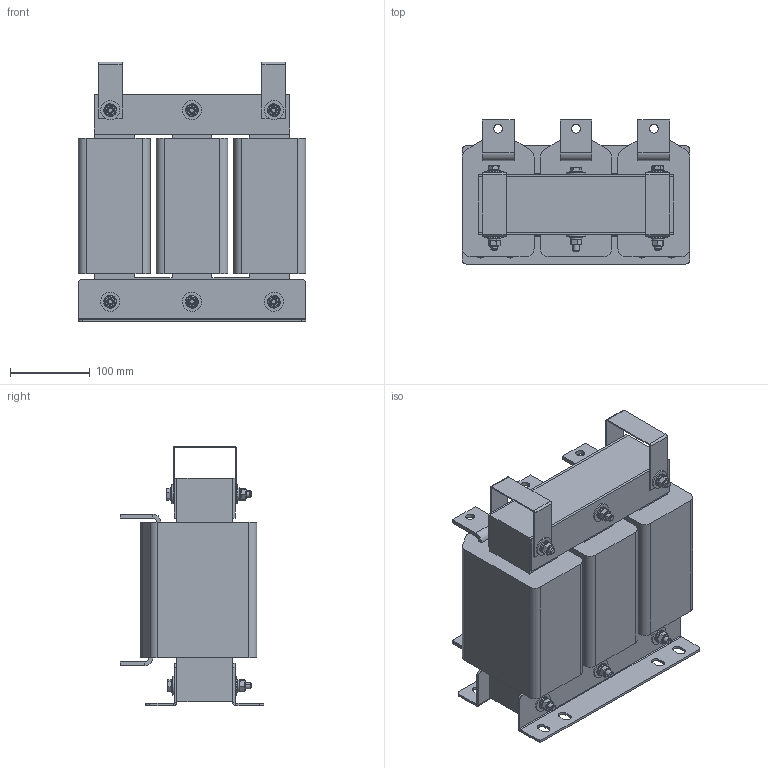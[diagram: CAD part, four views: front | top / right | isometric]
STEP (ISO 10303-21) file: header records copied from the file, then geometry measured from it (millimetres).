
FILE_DESCRIPTION (( 'STEP AP203' ), '1' );
FILE_NAME ('Ñåòåâîé äðîññåëü _ ISF-220_425-4.STEP', '2026-03-20T12:59:48', ( '' ), ( '' ), 'SwSTEP 2.0', 'SolidWorks 2021', '' );
FILE_SCHEMA (( 'CONFIG_CONTROL_DESIGN' ));
Length unit declared in the file: millimetre
Products named in the file (14): Êëåììà âåðõíÿÿ_200-250; Ñåòåâîé äðîññåëü _ ISF-220_425-4; Êëåììà íèæíÿÿ_200-250; Øàéáà ïëîñêàÿ DIN 9021_Œ8 ¯®«¨ ¬¨¤; 忺覷齆趌200-250; Øàéáà ïëîñêàÿ DIN 125 (A)_Œ8; Ñêîáà òàêåëàæíàÿ_200-250; 咈櫡_200-250; Áîëò DIN 933_Œ8å100; Êàòóøêà ñ êëåììàìè_200-250; Ãàéêà DIN 934_Œ8; Ïëàñòèíà ïðèæèìíàÿ_200-250; 栫謱毿膻獥1225; Øàéáà ïðóæèííàÿ DIN 127 (A)_Œ8
Assembly tree (55 placements, depth 3):
  Ñåòåâîé äðîññåëü _ ISF-220_425-4
    栫謱毿膻獥1225
    咈櫡_200-250  x2
    Êàòóøêà ñ êëåììàìè_200-250  x3
      忺覷齆趌200-250
      Êëåììà íèæíÿÿ_200-250
      Êëåììà âåðõíÿÿ_200-250
    Ïëàñòèíà ïðèæèìíàÿ_200-250  x2
    Ñêîáà òàêåëàæíàÿ_200-250  x2
    Øàéáà ïëîñêàÿ DIN 9021_Œ8 ¯®«¨ ¬¨¤  x12
    Øàéáà ïëîñêàÿ DIN 125 (A)_Œ8  x12
    Øàéáà ïðóæèííàÿ DIN 127 (A)_Œ8  x6
    Ãàéêà DIN 934_Œ8  x6
    Áîëò DIN 933_Œ8å100  x6
Bounding box: 285 x 180 x 325 mm (x, y, z)
Volume: 8594097 mm3; surface area: 908002.9 mm2
Topology: 58 solids, 58 shells, 896 faces, 2016 edges, 1254 vertices
Faces by surface type: plane 420, cylinder 272, cone 192, torus 12
Entity records: 9904 total; most frequent: CARTESIAN_POINT 1455, DIRECTION 1303, ORIENTED_EDGE 1124, EDGE_CURVE 562, AXIS2_PLACEMENT_3D 481, VERTEX_POINT 353, LINE 341, VECTOR 341
